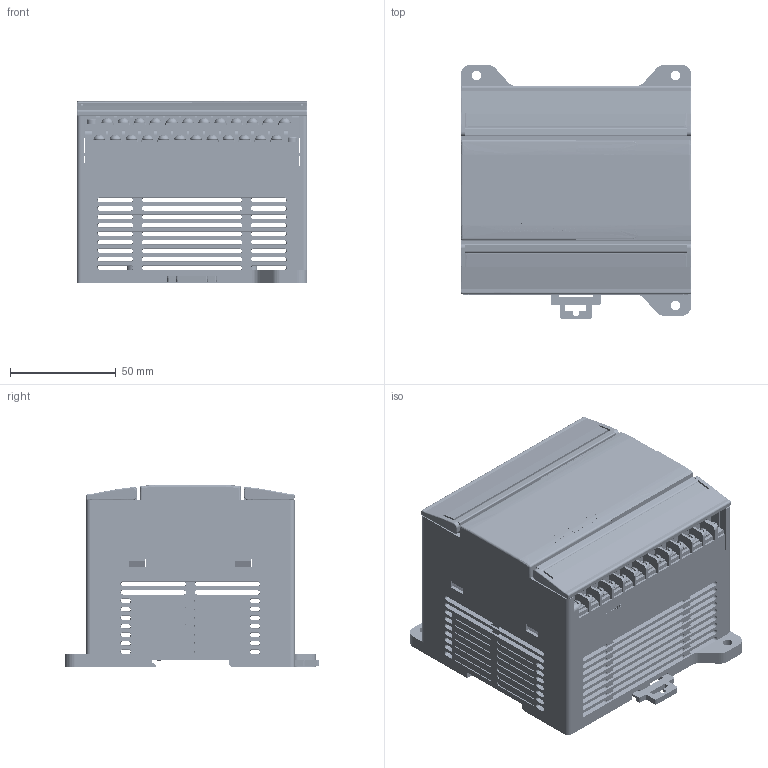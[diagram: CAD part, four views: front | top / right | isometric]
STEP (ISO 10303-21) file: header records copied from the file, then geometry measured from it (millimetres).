
FILE_DESCRIPTION((''),'2;1');
FILE_NAME('ASM0002_ASM_32_ASM','2022-03-29T11:28:26',('Lenovo'),(''),'CREO PARAMETRIC BY PTC INC, 2020033','CREO PARAMETRIC BY PTC INC, 2020033','');
FILE_SCHEMA(('CONFIG_CONTROL_DESIGN'));
Products named in the file (21): MK_DOWN_7; MK_IO_PCB_4; MK_CPU_PCB_2; RJ45_1X1__1; M3_1; M3LD_2; MK_PCB_ASM_ASM_6_ASM; MANIFOLD_SOLID_BREP_2940_2; MK_UP_12; MK_GB_4; MK_DZ_3; MK_DZ_2_3; MANIFOLD_SOLID_BREP_2471_1; MANIFOLD_SOLID_BREP_2472_1; MANIFOLD_SOLID_BREP_2475_1; MANIFOLD_SOLID_BREP_2476_6; MP2_32PIN_4; MANIFOLD_SOLID_BREP_2473_1; ADMI059ES0LP_ASM_9_ASM; MK-0917-5_ASM_2_ASM; ASM0002_ASM_32_ASM
Assembly tree (72 placements, depth 4):
  ASM0002_ASM_32_ASM
    MK_DOWN_7
    MK_PCB_ASM_ASM_6_ASM
      MK_IO_PCB_4
      MK_CPU_PCB_2
      RJ45_1X1__1  x2
      M3_1  x4
      M3LD_2  x48
    MANIFOLD_SOLID_BREP_2940_2
    MK_UP_12
    MK_GB_4  x2
    MK_DZ_3
    MK_DZ_2_3
    MK-0917-5_ASM_2_ASM
      ADMI059ES0LP_ASM_9_ASM
        MANIFOLD_SOLID_BREP_2471_1
        MANIFOLD_SOLID_BREP_2472_1
        MANIFOLD_SOLID_BREP_2475_1
        MANIFOLD_SOLID_BREP_2476_6
        MP2_32PIN_4
        MANIFOLD_SOLID_BREP_2473_1
Bounding box: 109 x 120.05 x 85.95 mm (x, y, z)
Volume: 377070.7 mm3; surface area: 410736.2 mm2
Topology: 69 solids, 103 shells, 10380 faces, 30198 edges, 20205 vertices
Faces by surface type: plane 6590, cylinder 2676, torus 360, bspline 324, cone 193, sphere 186, extrusion 51
Entity records: 239618 total; most frequent: CARTESIAN_POINT 65086, ORIENTED_EDGE 38984, DIRECTION 31925, EDGE_CURVE 19573, VERTEX_POINT 13331, VECTOR 12771, LINE 12730, AXIS2_PLACEMENT_3D 9577
